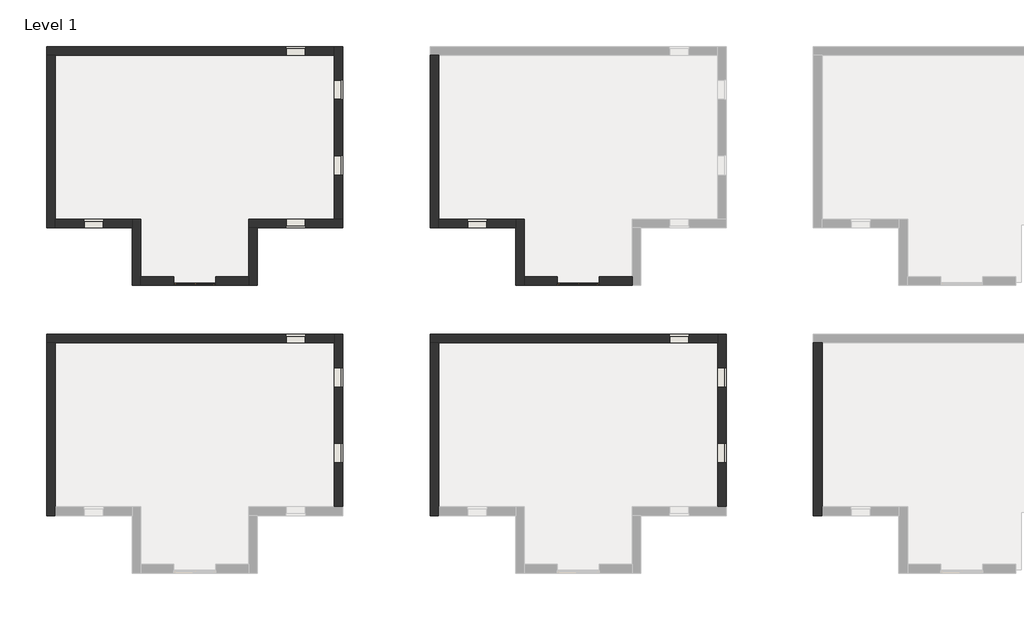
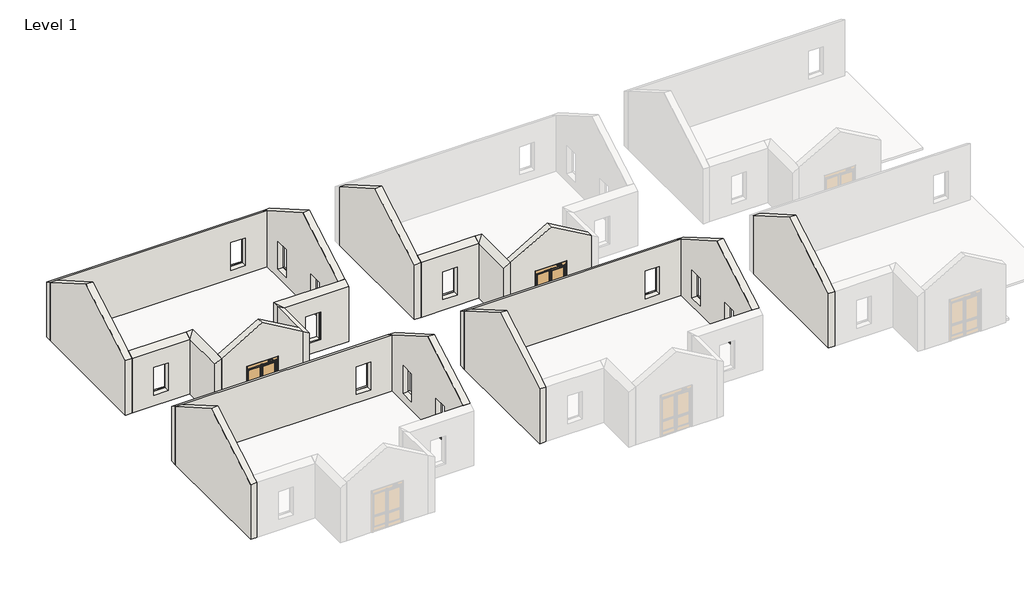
# One storey, part 2 of 4: 19 walls, 2 doors.
"""IFC4 building model written with IfcOpenShell, lengths in millimetres."""

from ifc_helpers import new_model, si_unit, frame, origin, place, context, project, spatial, polyline, outline, extrude, faceted_brep, transform, mapped, element, save
from components import non_impact_rated_medium_stile_77e616cb

model = new_model("IFC4")

# Units and contexts
model_context = context("Model", 3, world=origin())
ifc_project = project(units=[si_unit("LENGTHUNIT", "METRE", prefix="MILLI")], contexts=[model_context])

# Site, building, storey
site = spatial("IfcSite", under=ifc_project)
building = spatial("IfcBuilding", under=site)
storey = spatial("IfcBuildingStorey", under=building, Name="Level 1", Elevation=0.0)

# Doors
placement = place(None, origin())
non_impact_rated_medium_stile_shape = non_impact_rated_medium_stile_77e616cb(model_context)
element("IfcDoor", 1, ObjectType="Door_Sliding_AssaAbloy_Resilience-R128-FBO-Single : Non Impact Rated - Medium Stile", at=placement, inside=storey, context=model_context, shape_type="MappedRepresentation", body=[
    mapped(non_impact_rated_medium_stile_shape, transform((-20939.1239555, 8608.1209288, 0.0), x_axis=(1.0, 0.0, 0.0), y_axis=(0.0, 1.0, 0.0), z_axis=(0.0, 0.0, 1.0))),
])
element("IfcDoor", 2, ObjectType="Door_Sliding_AssaAbloy_Resilience-R128-FBO-Single : Non Impact Rated - Medium Stile", at=placement, inside=storey, context=model_context, shape_type="MappedRepresentation", body=[
    mapped(non_impact_rated_medium_stile_shape, transform((-939.1239555, 8608.1209288, 0.0), x_axis=(1.0, 0.0, 0.0), y_axis=(0.0, 1.0, 0.0), z_axis=(0.0, 0.0, 1.0))),
])

# Walls
element("IfcWall", 3, ObjectType="Exterior - Block on Mtl. Stud", at=placement, inside=storey, context=model_context, shape_type="Brep", body=[
    faceted_brep([(-27036.2332588, 4515.4798849, 4265.5811238), (-27036.2332588, 4515.4798849, 0.0), (-26871.2332588, 4515.4798849, 0.0), (-26871.2332588, 4515.4798849, 150.0), (-26576.2332588, 4515.4798849, 150.0), (-12036.2332588, 4515.4798849, 150.0), (-12036.2332588, 4515.4798849, 4265.5811238), (-26576.2332588, 4515.4798849, 4265.5811238), (-14536.2332588, 4515.4798849, 2800.0), (-13536.2332588, 4515.4798849, 2800.0), (-13536.2332588, 4515.4798849, 770.0), (-14536.2332588, 4515.4798849, 770.0), (-12036.2332588, 4975.4798849, 0.0), (-27036.2332588, 4975.4798849, 0.0), (-27036.2332588, 4975.4798849, 4000.0), (-12036.2332588, 4975.4798849, 4000.0), (-13517.2338968, 4975.4798849, 2832.0), (-14555.2326208, 4975.4798849, 2832.0), (-14555.2326208, 4975.4798849, 800.0), (-13517.2338968, 4975.4798849, 800.0), (-12036.2332588, 4810.4798849, 0.0), (-26871.2332588, 4810.4798849, 0.0), (-12036.2332588, 4810.4798849, 150.0), (-14536.2332588, 4855.4798849, 2800.0), (-13536.2332588, 4855.4798849, 2800.0), (-13536.2332588, 4875.4798849, 770.0), (-14536.2332588, 4875.4798849, 770.0), (-13536.2332588, 4855.4798849, 800.0), (-13536.2332588, 4875.4798849, 800.0), (-14536.2332588, 4875.4798849, 800.0), (-14536.2332588, 4855.4798849, 800.0), (-14568.2332588, 4855.4798849, 2832.0), (-14568.2332588, 4868.4798849, 2832.0), (-14555.2326208, 4868.4798849, 2832.0), (-13517.2338968, 4868.4798849, 2832.0), (-13504.2332588, 4868.4798849, 2832.0), (-13504.2332588, 4855.4798849, 2832.0), (-13504.2332588, 4855.4798849, 800.0), (-13504.2332588, 4868.4798849, 800.0), (-13517.2338968, 4868.4798849, 800.0), (-14555.2326208, 4868.4798849, 800.0), (-14568.2332588, 4868.4798849, 800.0), (-14568.2332588, 4855.4798849, 800.0), (-26871.2332588, 4810.4798849, 150.0)], [[[0, 1, 2, 3, 4, 5, 6, 7], [8, 9, 10, 11]], [[12, 13, 14, 15], [16, 17, 18, 19]], [[13, 12, 20, 21, 2, 1]], [[1, 0, 14, 13]], [[12, 15, 6, 5, 22, 20]], [[9, 8, 23, 24]], [[10, 25, 26, 11]], [[9, 24, 27, 28, 25, 10]], [[26, 25, 28, 29]], [[23, 8, 11, 26, 29, 30]], [[31, 32, 33, 17, 16, 34, 35, 36]], [[28, 27, 37, 38, 39, 19, 18, 40, 41, 42, 30, 29]], [[24, 23, 30, 42, 31, 36, 37, 27]], [[36, 35, 38, 37]], [[32, 31, 42, 41]], [[35, 34, 39, 38]], [[34, 16, 19, 39]], [[17, 33, 40, 18]], [[33, 32, 41, 40]], [[3, 43, 22, 5, 4]], [[21, 43, 3, 2]], [[43, 21, 20, 22]], [[0, 7, 6, 15, 14]]]),
])
element("IfcWall", 4, ObjectType="Exterior - Block on Mtl. Stud", at=placement, inside=storey, context=model_context, shape_type="Brep", body=[
    faceted_brep([(-26576.2332588, -4484.5201151, 4000.0), (-26576.2332588, -4484.5201151, 0.0), (-26576.2332588, -4319.5201151, 0.0), (-26576.2332588, -4319.5201151, 150.0), (-26576.2332588, 4515.4798849, 150.0), (-26576.2332588, 4515.4798849, 4265.5811238), (-26576.2332588, 245.4798849, 6730.8667733), (-26576.2332588, -4024.5201151, 4265.5811238), (-27036.2332588, 4515.4798849, 0.0), (-27036.2332588, -4484.5201151, 0.0), (-27036.2332588, -4484.5201151, 4000.0), (-27036.2332588, 245.4798849, 6730.8667733), (-27036.2332588, 4515.4798849, 4265.5811238), (-26871.2332588, 4515.4798849, 0.0), (-26871.2332588, -4319.5201151, 0.0), (-26871.2332588, 4515.4798849, 150.0), (-26871.2332588, -4319.5201151, 150.0)], [[[0, 1, 2, 3, 4, 5, 6, 7]], [[8, 9, 10, 11, 12]], [[9, 8, 13, 14, 2, 1]], [[1, 0, 10, 9]], [[8, 12, 5, 4, 15, 13]], [[3, 16, 15, 4]], [[16, 14, 13, 15]], [[14, 16, 3, 2]], [[10, 0, 7, 6, 11]], [[5, 12, 11, 6]]]),
])
element("IfcWall", 5, ObjectType="Exterior - Block on Mtl. Stud", at=placement, inside=storey, context=model_context, shape_type="Brep", body=[
    faceted_brep([(-12036.2332588, 4975.4798849, 4000.0), (-12036.2332588, 4975.4798849, 0.0), (-12036.2332588, 4810.4798849, 0.0), (-12036.2332588, 4810.4798849, 150.0), (-12036.2332588, 4515.4798849, 150.0), (-12036.2332588, -4024.5201151, 150.0), (-12036.2332588, -4024.5201151, 4265.5811238), (-12036.2332588, 245.4798849, 6730.8667733), (-12036.2332588, 4515.4798849, 4265.5811238), (-12036.2332588, -724.5201151, 2800.0), (-12036.2332588, -1724.5201151, 2800.0), (-12036.2332588, -1724.5201151, 770.0), (-12036.2332588, -724.5201151, 770.0), (-12036.2332588, 3215.4798849, 2800.0), (-12036.2332588, 2215.4798849, 2800.0), (-12036.2332588, 2215.4798849, 770.0), (-12036.2332588, 3215.4798849, 770.0), (-11576.2332588, -4024.5201151, 0.0), (-11576.2332588, 4975.4798849, 0.0), (-11576.2332588, 4975.4798849, 4000.0), (-11576.2332588, 245.4798849, 6730.8667733), (-11576.2332588, -4024.5201151, 4265.5811238), (-11576.2332588, -1743.5194771, 2832.0), (-11576.2332588, -705.5207531, 2832.0), (-11576.2332588, -705.5207531, 800.0), (-11576.2332588, -1743.5194771, 800.0), (-11576.2332588, 2196.4805229, 2832.0), (-11576.2332588, 3234.4792469, 2832.0), (-11576.2332588, 3234.4792469, 800.0), (-11576.2332588, 2196.4805229, 800.0), (-11741.2332588, -4024.5201151, 0.0), (-11741.2332588, 4810.4798849, 0.0), (-11741.2332588, -4024.5201151, 150.0), (-11696.2332588, -724.5201151, 2800.0), (-11696.2332588, -1724.5201151, 2800.0), (-11676.2332588, -1724.5201151, 770.0), (-11676.2332588, -724.5201151, 770.0), (-11696.2332588, -1724.5201151, 800.0), (-11676.2332588, -1724.5201151, 800.0), (-11676.2332588, -724.5201151, 800.0), (-11696.2332588, -724.5201151, 800.0), (-11696.2332588, -692.5201151, 2832.0), (-11683.2332588, -692.5201151, 2832.0), (-11683.2332588, -705.5207531, 2832.0), (-11683.2332588, -1743.5194771, 2832.0), (-11683.2332588, -1756.5201151, 2832.0), (-11696.2332588, -1756.5201151, 2832.0), (-11696.2332588, -1756.5201151, 800.0), (-11683.2332588, -1756.5201151, 800.0), (-11683.2332588, -1743.5194771, 800.0), (-11683.2332588, -705.5207531, 800.0), (-11683.2332588, -692.5201151, 800.0), (-11696.2332588, -692.5201151, 800.0), (-11696.2332588, 3215.4798849, 2800.0), (-11696.2332588, 2215.4798849, 2800.0), (-11676.2332588, 2215.4798849, 770.0), (-11676.2332588, 3215.4798849, 770.0), (-11696.2332588, 2215.4798849, 800.0), (-11676.2332588, 2215.4798849, 800.0), (-11676.2332588, 3215.4798849, 800.0), (-11696.2332588, 3215.4798849, 800.0), (-11696.2332588, 3247.4798849, 2832.0), (-11683.2332588, 3247.4798849, 2832.0), (-11683.2332588, 3234.4792469, 2832.0), (-11683.2332588, 2196.4805229, 2832.0), (-11683.2332588, 2183.4798849, 2832.0), (-11696.2332588, 2183.4798849, 2832.0), (-11696.2332588, 2183.4798849, 800.0), (-11683.2332588, 2183.4798849, 800.0), (-11683.2332588, 2196.4805229, 800.0), (-11683.2332588, 3234.4792469, 800.0), (-11683.2332588, 3247.4798849, 800.0), (-11696.2332588, 3247.4798849, 800.0), (-11741.2332588, 4810.4798849, 150.0)], [[[0, 1, 2, 3, 4, 5, 6, 7, 8], [9, 10, 11, 12], [13, 14, 15, 16]], [[17, 18, 19, 20, 21], [22, 23, 24, 25], [26, 27, 28, 29]], [[18, 17, 30, 31, 2, 1]], [[1, 0, 19, 18]], [[17, 21, 6, 5, 32, 30]], [[10, 9, 33, 34]], [[11, 35, 36, 12]], [[10, 34, 37, 38, 35, 11]], [[36, 35, 38, 39]], [[33, 9, 12, 36, 39, 40]], [[41, 42, 43, 23, 22, 44, 45, 46]], [[38, 37, 47, 48, 49, 25, 24, 50, 51, 52, 40, 39]], [[34, 33, 40, 52, 41, 46, 47, 37]], [[46, 45, 48, 47]], [[42, 41, 52, 51]], [[45, 44, 49, 48]], [[44, 22, 25, 49]], [[23, 43, 50, 24]], [[43, 42, 51, 50]], [[14, 13, 53, 54]], [[15, 55, 56, 16]], [[14, 54, 57, 58, 55, 15]], [[56, 55, 58, 59]], [[53, 13, 16, 56, 59, 60]], [[61, 62, 63, 27, 26, 64, 65, 66]], [[58, 57, 67, 68, 69, 29, 28, 70, 71, 72, 60, 59]], [[54, 53, 60, 72, 61, 66, 67, 57]], [[66, 65, 68, 67]], [[62, 61, 72, 71]], [[65, 64, 69, 68]], [[64, 26, 29, 69]], [[27, 63, 70, 28]], [[63, 62, 71, 70]], [[73, 32, 5, 4, 3]], [[73, 31, 30, 32]], [[31, 73, 3, 2]], [[19, 0, 8, 7, 20]], [[6, 21, 20, 7]]]),
])
element("IfcWall", 6, ObjectType="Exterior - Block on Mtl. Stud", at=placement, inside=storey, context=model_context, shape_type="Brep", body=[
    faceted_brep([(-7036.2332588, 4515.4798849, 4265.5811238), (-7036.2332588, 4515.4798849, 0.0), (-6871.2332588, 4515.4798849, 0.0), (-6871.2332588, 4515.4798849, 150.0), (-6576.2332588, 4515.4798849, 150.0), (7963.7667412, 4515.4798849, 150.0), (7963.7667412, 4515.4798849, 4265.5811238), (-6576.2332588, 4515.4798849, 4265.5811238), (5463.7667412, 4515.4798849, 2800.0), (6463.7667412, 4515.4798849, 2800.0), (6463.7667412, 4515.4798849, 770.0), (5463.7667412, 4515.4798849, 770.0), (7963.7667412, 4975.4798849, 0.0), (-7036.2332588, 4975.4798849, 0.0), (-7036.2332588, 4975.4798849, 4000.0), (7963.7667412, 4975.4798849, 4000.0), (6482.7661032, 4975.4798849, 2832.0), (5444.7673792, 4975.4798849, 2832.0), (5444.7673792, 4975.4798849, 800.0), (6482.7661032, 4975.4798849, 800.0), (7963.7667412, 4810.4798849, 0.0), (-6871.2332588, 4810.4798849, 0.0), (7963.7667412, 4810.4798849, 150.0), (5463.7667412, 4855.4798849, 2800.0), (6463.7667412, 4855.4798849, 2800.0), (6463.7667412, 4875.4798849, 770.0), (5463.7667412, 4875.4798849, 770.0), (6463.7667412, 4855.4798849, 800.0), (6463.7667412, 4875.4798849, 800.0), (5463.7667412, 4875.4798849, 800.0), (5463.7667412, 4855.4798849, 800.0), (5431.7667412, 4855.4798849, 2832.0), (5431.7667412, 4868.4798849, 2832.0), (5444.7673792, 4868.4798849, 2832.0), (6482.7661032, 4868.4798849, 2832.0), (6495.7667412, 4868.4798849, 2832.0), (6495.7667412, 4855.4798849, 2832.0), (6495.7667412, 4855.4798849, 800.0), (6495.7667412, 4868.4798849, 800.0), (6482.7661032, 4868.4798849, 800.0), (5444.7673792, 4868.4798849, 800.0), (5431.7667412, 4868.4798849, 800.0), (5431.7667412, 4855.4798849, 800.0), (-6871.2332588, 4810.4798849, 150.0)], [[[0, 1, 2, 3, 4, 5, 6, 7], [8, 9, 10, 11]], [[12, 13, 14, 15], [16, 17, 18, 19]], [[13, 12, 20, 21, 2, 1]], [[1, 0, 14, 13]], [[12, 15, 6, 5, 22, 20]], [[9, 8, 23, 24]], [[10, 25, 26, 11]], [[9, 24, 27, 28, 25, 10]], [[26, 25, 28, 29]], [[23, 8, 11, 26, 29, 30]], [[31, 32, 33, 17, 16, 34, 35, 36]], [[28, 27, 37, 38, 39, 19, 18, 40, 41, 42, 30, 29]], [[24, 23, 30, 42, 31, 36, 37, 27]], [[36, 35, 38, 37]], [[32, 31, 42, 41]], [[35, 34, 39, 38]], [[34, 16, 19, 39]], [[17, 33, 40, 18]], [[33, 32, 41, 40]], [[3, 43, 22, 5, 4]], [[21, 43, 3, 2]], [[43, 21, 20, 22]], [[0, 7, 6, 15, 14]]]),
])
element("IfcWall", 7, ObjectType="Exterior - Block on Mtl. Stud", at=placement, inside=storey, context=model_context, shape_type="Brep", body=[
    faceted_brep([(-6576.2332588, -4484.5201151, 4000.0), (-6576.2332588, -4484.5201151, 0.0), (-6576.2332588, -4319.5201151, 0.0), (-6576.2332588, -4319.5201151, 150.0), (-6576.2332588, 4515.4798849, 150.0), (-6576.2332588, 4515.4798849, 4265.5811238), (-6576.2332588, 245.4798849, 6730.8667733), (-6576.2332588, -4024.5201151, 4265.5811238), (-7036.2332588, 4515.4798849, 0.0), (-7036.2332588, -4484.5201151, 0.0), (-7036.2332588, -4484.5201151, 4000.0), (-7036.2332588, 245.4798849, 6730.8667733), (-7036.2332588, 4515.4798849, 4265.5811238), (-6871.2332588, 4515.4798849, 0.0), (-6871.2332588, -4319.5201151, 0.0), (-6871.2332588, 4515.4798849, 150.0), (-6871.2332588, -4319.5201151, 150.0)], [[[0, 1, 2, 3, 4, 5, 6, 7]], [[8, 9, 10, 11, 12]], [[9, 8, 13, 14, 2, 1]], [[1, 0, 10, 9]], [[8, 12, 5, 4, 15, 13]], [[3, 16, 15, 4]], [[16, 14, 13, 15]], [[14, 16, 3, 2]], [[10, 0, 7, 6, 11]], [[5, 12, 11, 6]]]),
])
element("IfcWall", 8, ObjectType="Exterior - Block on Mtl. Stud", at=placement, inside=storey, context=model_context, shape_type="Brep", body=[
    faceted_brep([(7963.7667412, 4975.4798849, 4000.0), (7963.7667412, 4975.4798849, 0.0), (7963.7667412, 4810.4798849, 0.0), (7963.7667412, 4810.4798849, 150.0), (7963.7667412, 4515.4798849, 150.0), (7963.7667412, -4024.5201151, 150.0), (7963.7667412, -4024.5201151, 4265.5811238), (7963.7667412, 245.4798849, 6730.8667733), (7963.7667412, 4515.4798849, 4265.5811238), (7963.7667412, -724.5201151, 2800.0), (7963.7667412, -1724.5201151, 2800.0), (7963.7667412, -1724.5201151, 770.0), (7963.7667412, -724.5201151, 770.0), (7963.7667412, 3215.4798849, 2800.0), (7963.7667412, 2215.4798849, 2800.0), (7963.7667412, 2215.4798849, 770.0), (7963.7667412, 3215.4798849, 770.0), (8423.7667412, -4024.5201151, 0.0), (8423.7667412, 4975.4798849, 0.0), (8423.7667412, 4975.4798849, 4000.0), (8423.7667412, 245.4798849, 6730.8667733), (8423.7667412, -4024.5201151, 4265.5811238), (8423.7667412, -1743.5194771, 2832.0), (8423.7667412, -705.5207531, 2832.0), (8423.7667412, -705.5207531, 800.0), (8423.7667412, -1743.5194771, 800.0), (8423.7667412, 2196.4805229, 2832.0), (8423.7667412, 3234.4792469, 2832.0), (8423.7667412, 3234.4792469, 800.0), (8423.7667412, 2196.4805229, 800.0), (8258.7667412, -4024.5201151, 0.0), (8258.7667412, 4810.4798849, 0.0), (8258.7667412, -4024.5201151, 150.0), (8303.7667412, -724.5201151, 2800.0), (8303.7667412, -1724.5201151, 2800.0), (8323.7667412, -1724.5201151, 770.0), (8323.7667412, -724.5201151, 770.0), (8303.7667412, -1724.5201151, 800.0), (8323.7667412, -1724.5201151, 800.0), (8323.7667412, -724.5201151, 800.0), (8303.7667412, -724.5201151, 800.0), (8303.7667412, -692.5201151, 2832.0), (8316.7667412, -692.5201151, 2832.0), (8316.7667412, -705.5207531, 2832.0), (8316.7667412, -1743.5194771, 2832.0), (8316.7667412, -1756.5201151, 2832.0), (8303.7667412, -1756.5201151, 2832.0), (8303.7667412, -1756.5201151, 800.0), (8316.7667412, -1756.5201151, 800.0), (8316.7667412, -1743.5194771, 800.0), (8316.7667412, -705.5207531, 800.0), (8316.7667412, -692.5201151, 800.0), (8303.7667412, -692.5201151, 800.0), (8303.7667412, 3215.4798849, 2800.0), (8303.7667412, 2215.4798849, 2800.0), (8323.7667412, 2215.4798849, 770.0), (8323.7667412, 3215.4798849, 770.0), (8303.7667412, 2215.4798849, 800.0), (8323.7667412, 2215.4798849, 800.0), (8323.7667412, 3215.4798849, 800.0), (8303.7667412, 3215.4798849, 800.0), (8303.7667412, 3247.4798849, 2832.0), (8316.7667412, 3247.4798849, 2832.0), (8316.7667412, 3234.4792469, 2832.0), (8316.7667412, 2196.4805229, 2832.0), (8316.7667412, 2183.4798849, 2832.0), (8303.7667412, 2183.4798849, 2832.0), (8303.7667412, 2183.4798849, 800.0), (8316.7667412, 2183.4798849, 800.0), (8316.7667412, 2196.4805229, 800.0), (8316.7667412, 3234.4792469, 800.0), (8316.7667412, 3247.4798849, 800.0), (8303.7667412, 3247.4798849, 800.0), (8258.7667412, 4810.4798849, 150.0)], [[[0, 1, 2, 3, 4, 5, 6, 7, 8], [9, 10, 11, 12], [13, 14, 15, 16]], [[17, 18, 19, 20, 21], [22, 23, 24, 25], [26, 27, 28, 29]], [[18, 17, 30, 31, 2, 1]], [[1, 0, 19, 18]], [[17, 21, 6, 5, 32, 30]], [[10, 9, 33, 34]], [[11, 35, 36, 12]], [[10, 34, 37, 38, 35, 11]], [[36, 35, 38, 39]], [[33, 9, 12, 36, 39, 40]], [[41, 42, 43, 23, 22, 44, 45, 46]], [[38, 37, 47, 48, 49, 25, 24, 50, 51, 52, 40, 39]], [[34, 33, 40, 52, 41, 46, 47, 37]], [[46, 45, 48, 47]], [[42, 41, 52, 51]], [[45, 44, 49, 48]], [[44, 22, 25, 49]], [[23, 43, 50, 24]], [[43, 42, 51, 50]], [[14, 13, 53, 54]], [[15, 55, 56, 16]], [[14, 54, 57, 58, 55, 15]], [[56, 55, 58, 59]], [[53, 13, 16, 56, 59, 60]], [[61, 62, 63, 27, 26, 64, 65, 66]], [[58, 57, 67, 68, 69, 29, 28, 70, 71, 72, 60, 59]], [[54, 53, 60, 72, 61, 66, 67, 57]], [[66, 65, 68, 67]], [[62, 61, 72, 71]], [[65, 64, 69, 68]], [[64, 26, 29, 69]], [[27, 63, 70, 28]], [[63, 62, 71, 70]], [[73, 32, 5, 4, 3]], [[73, 31, 30, 32]], [[31, 73, 3, 2]], [[19, 0, 8, 7, 20]], [[6, 21, 20, 7]]]),
])
element("IfcWall", 9, ObjectType="Exterior - Block on Mtl. Stud", at=placement, inside=storey, context=model_context, shape_type="Brep", body=[
    faceted_brep([(13423.7667412, -4484.5201151, 4000.0), (13423.7667412, -4484.5201151, 0.0), (13423.7667412, -4319.5201151, 0.0), (13423.7667412, -4319.5201151, 150.0), (13423.7667412, 4515.4798849, 150.0), (13423.7667412, 4515.4798849, 4265.5811238), (13423.7667412, 245.4798849, 6730.8667733), (13423.7667412, -4024.5201151, 4265.5811238), (12963.7667412, 4515.4798849, 0.0), (12963.7667412, -4484.5201151, 0.0), (12963.7667412, -4484.5201151, 4000.0), (12963.7667412, 245.4798849, 6730.8667733), (12963.7667412, 4515.4798849, 4265.5811238), (13128.7667412, 4515.4798849, 0.0), (13128.7667412, -4319.5201151, 0.0), (13128.7667412, 4515.4798849, 150.0), (13128.7667412, -4319.5201151, 150.0)], [[[0, 1, 2, 3, 4, 5, 6, 7]], [[8, 9, 10, 11, 12]], [[9, 8, 13, 14, 2, 1]], [[1, 0, 10, 9]], [[8, 12, 5, 4, 15, 13]], [[3, 16, 15, 4]], [[16, 14, 13, 15]], [[14, 16, 3, 2]], [[10, 0, 7, 6, 11]], [[5, 12, 11, 6]]]),
])
element("IfcWall", 10, ObjectType="Exterior - Block on Mtl. Stud", at=placement, inside=storey, context=model_context, shape_type="Brep", body=[
    faceted_brep([(-27036.2332588, 19515.4798849, 4265.5811238), (-27036.2332588, 19515.4798849, 0.0), (-26871.2332588, 19515.4798849, 0.0), (-26871.2332588, 19515.4798849, 150.0), (-26576.2332588, 19515.4798849, 150.0), (-12036.2332588, 19515.4798849, 150.0), (-12036.2332588, 19515.4798849, 4265.5811238), (-26576.2332588, 19515.4798849, 4265.5811238), (-14536.2332588, 19515.4798849, 2800.0), (-13536.2332588, 19515.4798849, 2800.0), (-13536.2332588, 19515.4798849, 770.0), (-14536.2332588, 19515.4798849, 770.0), (-12036.2332588, 19975.4798849, 0.0), (-27036.2332588, 19975.4798849, 0.0), (-27036.2332588, 19975.4798849, 4000.0), (-12036.2332588, 19975.4798849, 4000.0), (-13517.2338968, 19975.4798849, 2832.0), (-14555.2326208, 19975.4798849, 2832.0), (-14555.2326208, 19975.4798849, 800.0), (-13517.2338968, 19975.4798849, 800.0), (-12036.2332588, 19810.4798849, 0.0), (-26871.2332588, 19810.4798849, 0.0), (-12036.2332588, 19810.4798849, 150.0), (-14536.2332588, 19855.4798849, 2800.0), (-13536.2332588, 19855.4798849, 2800.0), (-13536.2332588, 19875.4798849, 770.0), (-14536.2332588, 19875.4798849, 770.0), (-13536.2332588, 19855.4798849, 800.0), (-13536.2332588, 19875.4798849, 800.0), (-14536.2332588, 19875.4798849, 800.0), (-14536.2332588, 19855.4798849, 800.0), (-14568.2332588, 19855.4798849, 2832.0), (-14568.2332588, 19868.4798849, 2832.0), (-14555.2326208, 19868.4798849, 2832.0), (-13517.2338968, 19868.4798849, 2832.0), (-13504.2332588, 19868.4798849, 2832.0), (-13504.2332588, 19855.4798849, 2832.0), (-13504.2332588, 19855.4798849, 800.0), (-13504.2332588, 19868.4798849, 800.0), (-13517.2338968, 19868.4798849, 800.0), (-14555.2326208, 19868.4798849, 800.0), (-14568.2332588, 19868.4798849, 800.0), (-14568.2332588, 19855.4798849, 800.0), (-26871.2332588, 19810.4798849, 150.0)], [[[0, 1, 2, 3, 4, 5, 6, 7], [8, 9, 10, 11]], [[12, 13, 14, 15], [16, 17, 18, 19]], [[13, 12, 20, 21, 2, 1]], [[1, 0, 14, 13]], [[12, 15, 6, 5, 22, 20]], [[9, 8, 23, 24]], [[10, 25, 26, 11]], [[9, 24, 27, 28, 25, 10]], [[26, 25, 28, 29]], [[23, 8, 11, 26, 29, 30]], [[31, 32, 33, 17, 16, 34, 35, 36]], [[28, 27, 37, 38, 39, 19, 18, 40, 41, 42, 30, 29]], [[24, 23, 30, 42, 31, 36, 37, 27]], [[36, 35, 38, 37]], [[32, 31, 42, 41]], [[35, 34, 39, 38]], [[34, 16, 19, 39]], [[17, 33, 40, 18]], [[33, 32, 41, 40]], [[3, 43, 22, 5, 4]], [[21, 43, 3, 2]], [[43, 21, 20, 22]], [[0, 7, 6, 15, 14]]]),
])
element("IfcWall", 11, ObjectType="Exterior - Block on Mtl. Stud", at=placement, inside=storey, context=model_context, shape_type="Brep", body=[
    faceted_brep([(-26576.2332588, 10515.4798849, 4000.0), (-26576.2332588, 10515.4798849, 0.0), (-26576.2332588, 10680.4798849, 0.0), (-26576.2332588, 10680.4798849, 150.0), (-26576.2332588, 19515.4798849, 150.0), (-26576.2332588, 19515.4798849, 4265.5811238), (-26576.2332588, 15245.4798849, 6730.8667733), (-26576.2332588, 10975.4798849, 4265.5811238), (-27036.2332588, 19515.4798849, 0.0), (-27036.2332588, 10515.4798849, 0.0), (-27036.2332588, 10515.4798849, 4000.0), (-27036.2332588, 15245.4798849, 6730.8667733), (-27036.2332588, 19515.4798849, 4265.5811238), (-26871.2332588, 19515.4798849, 0.0), (-26871.2332588, 10680.4798849, 0.0), (-26871.2332588, 19515.4798849, 150.0), (-26871.2332588, 10680.4798849, 150.0)], [[[0, 1, 2, 3, 4, 5, 6, 7]], [[8, 9, 10, 11, 12]], [[9, 8, 13, 14, 2, 1]], [[1, 0, 10, 9]], [[8, 12, 5, 4, 15, 13]], [[3, 16, 15, 4]], [[16, 14, 13, 15]], [[14, 16, 3, 2]], [[10, 0, 7, 6, 11]], [[5, 12, 11, 6]]]),
])
element("IfcWall", 12, ObjectType="Exterior - Block on Mtl. Stud", at=placement, inside=storey, context=model_context, shape_type="Brep", body=[
    faceted_brep([(-11576.2332588, 10975.4798849, 4265.5811238), (-11576.2332588, 10975.4798849, 0.0), (-11741.2332588, 10975.4798849, 0.0), (-11741.2332588, 10975.4798849, 150.0), (-12036.2332588, 10975.4798849, 150.0), (-16496.2332588, 10975.4798849, 150.0), (-16496.2332588, 10975.4798849, 4265.5811238), (-12036.2332588, 10975.4798849, 4265.5811238), (-13536.2332588, 10975.4798849, 2800.0), (-14536.2332588, 10975.4798849, 2800.0), (-14536.2332588, 10975.4798849, 770.0), (-13536.2332588, 10975.4798849, 770.0), (-11576.2332588, 10515.4798849, 0.0), (-11576.2332588, 10515.4798849, 4000.0), (-16036.2332588, 10515.4798849, 4000.0), (-16496.2332588, 10515.4798849, 4265.5811238), (-16496.2332588, 10515.4798849, 150.0), (-16201.2332588, 10515.4798849, 150.0), (-16201.2332588, 10515.4798849, 0.0), (-16036.2332588, 10515.4798849, 0.0), (-14555.2326208, 10515.4798849, 2832.0), (-13517.2338968, 10515.4798849, 2832.0), (-13517.2338968, 10515.4798849, 800.0), (-14555.2326208, 10515.4798849, 800.0), (-16201.2332588, 10680.4798849, 0.0), (-11741.2332588, 10680.4798849, 0.0), (-13536.2332588, 10635.4798849, 2800.0), (-14536.2332588, 10635.4798849, 2800.0), (-14536.2332588, 10615.4798849, 770.0), (-13536.2332588, 10615.4798849, 770.0), (-14536.2332588, 10635.4798849, 800.0), (-14536.2332588, 10615.4798849, 800.0), (-13536.2332588, 10615.4798849, 800.0), (-13536.2332588, 10635.4798849, 800.0), (-13504.2332588, 10635.4798849, 2832.0), (-13504.2332588, 10622.4798849, 2832.0), (-13517.2338968, 10622.4798849, 2832.0), (-14555.2326208, 10622.4798849, 2832.0), (-14568.2332588, 10622.4798849, 2832.0), (-14568.2332588, 10635.4798849, 2832.0), (-14568.2332588, 10635.4798849, 800.0), (-14568.2332588, 10622.4798849, 800.0), (-14555.2326208, 10622.4798849, 800.0), (-13517.2338968, 10622.4798849, 800.0), (-13504.2332588, 10622.4798849, 800.0), (-13504.2332588, 10635.4798849, 800.0), (-11741.2332588, 10680.4798849, 150.0), (-16201.2332588, 10680.4798849, 150.0)], [[[0, 1, 2, 3, 4, 5, 6, 7], [8, 9, 10, 11]], [[12, 13, 14, 15, 16, 17, 18, 19], [20, 21, 22, 23]], [[1, 12, 19, 18, 24, 25, 2]], [[1, 0, 13, 12]], [[9, 8, 26, 27]], [[10, 28, 29, 11]], [[9, 27, 30, 31, 28, 10]], [[29, 28, 31, 32]], [[26, 8, 11, 29, 32, 33]], [[34, 35, 36, 21, 20, 37, 38, 39]], [[31, 30, 40, 41, 42, 23, 22, 43, 44, 45, 33, 32]], [[27, 26, 33, 45, 34, 39, 40, 30]], [[39, 38, 41, 40]], [[35, 34, 45, 44]], [[38, 37, 42, 41]], [[37, 20, 23, 42]], [[21, 36, 43, 22]], [[36, 35, 44, 43]], [[15, 6, 5, 16]], [[46, 47, 17, 16, 5, 4, 3]], [[25, 46, 3, 2]], [[47, 46, 25, 24]], [[47, 24, 18, 17]], [[13, 0, 7, 6, 14]], [[6, 15, 14]]]),
])
element("IfcWall", 13, ObjectType="Exterior - Block on Mtl. Stud", at=placement, inside=storey, context=model_context, shape_type="Brep", body=[
    faceted_brep([(-12036.2332588, 19975.4798849, 4000.0), (-12036.2332588, 19975.4798849, 0.0), (-12036.2332588, 19810.4798849, 0.0), (-12036.2332588, 19810.4798849, 150.0), (-12036.2332588, 19515.4798849, 150.0), (-12036.2332588, 10975.4798849, 150.0), (-12036.2332588, 10975.4798849, 4265.5811238), (-12036.2332588, 15245.4798849, 6730.8667733), (-12036.2332588, 19515.4798849, 4265.5811238), (-12036.2332588, 14275.4798849, 2800.0), (-12036.2332588, 13275.4798849, 2800.0), (-12036.2332588, 13275.4798849, 770.0), (-12036.2332588, 14275.4798849, 770.0), (-12036.2332588, 18215.4798849, 2800.0), (-12036.2332588, 17215.4798849, 2800.0), (-12036.2332588, 17215.4798849, 770.0), (-12036.2332588, 18215.4798849, 770.0), (-11576.2332588, 10975.4798849, 0.0), (-11576.2332588, 19975.4798849, 0.0), (-11576.2332588, 19975.4798849, 4000.0), (-11576.2332588, 15245.4798849, 6730.8667733), (-11576.2332588, 10975.4798849, 4265.5811238), (-11576.2332588, 13256.4805229, 2832.0), (-11576.2332588, 14294.4792469, 2832.0), (-11576.2332588, 14294.4792469, 800.0), (-11576.2332588, 13256.4805229, 800.0), (-11576.2332588, 17196.4805229, 2832.0), (-11576.2332588, 18234.4792469, 2832.0), (-11576.2332588, 18234.4792469, 800.0), (-11576.2332588, 17196.4805229, 800.0), (-11741.2332588, 10975.4798849, 0.0), (-11741.2332588, 19810.4798849, 0.0), (-11741.2332588, 10975.4798849, 150.0), (-11696.2332588, 14275.4798849, 2800.0), (-11696.2332588, 13275.4798849, 2800.0), (-11676.2332588, 13275.4798849, 770.0), (-11676.2332588, 14275.4798849, 770.0), (-11696.2332588, 13275.4798849, 800.0), (-11676.2332588, 13275.4798849, 800.0), (-11676.2332588, 14275.4798849, 800.0), (-11696.2332588, 14275.4798849, 800.0), (-11696.2332588, 14307.4798849, 2832.0), (-11683.2332588, 14307.4798849, 2832.0), (-11683.2332588, 14294.4792469, 2832.0), (-11683.2332588, 13256.4805229, 2832.0), (-11683.2332588, 13243.4798849, 2832.0), (-11696.2332588, 13243.4798849, 2832.0), (-11696.2332588, 13243.4798849, 800.0), (-11683.2332588, 13243.4798849, 800.0), (-11683.2332588, 13256.4805229, 800.0), (-11683.2332588, 14294.4792469, 800.0), (-11683.2332588, 14307.4798849, 800.0), (-11696.2332588, 14307.4798849, 800.0), (-11696.2332588, 18215.4798849, 2800.0), (-11696.2332588, 17215.4798849, 2800.0), (-11676.2332588, 17215.4798849, 770.0), (-11676.2332588, 18215.4798849, 770.0), (-11696.2332588, 17215.4798849, 800.0), (-11676.2332588, 17215.4798849, 800.0), (-11676.2332588, 18215.4798849, 800.0), (-11696.2332588, 18215.4798849, 800.0), (-11696.2332588, 18247.4798849, 2832.0), (-11683.2332588, 18247.4798849, 2832.0), (-11683.2332588, 18234.4792469, 2832.0), (-11683.2332588, 17196.4805229, 2832.0), (-11683.2332588, 17183.4798849, 2832.0), (-11696.2332588, 17183.4798849, 2832.0), (-11696.2332588, 17183.4798849, 800.0), (-11683.2332588, 17183.4798849, 800.0), (-11683.2332588, 17196.4805229, 800.0), (-11683.2332588, 18234.4792469, 800.0), (-11683.2332588, 18247.4798849, 800.0), (-11696.2332588, 18247.4798849, 800.0), (-11741.2332588, 19810.4798849, 150.0)], [[[0, 1, 2, 3, 4, 5, 6, 7, 8], [9, 10, 11, 12], [13, 14, 15, 16]], [[17, 18, 19, 20, 21], [22, 23, 24, 25], [26, 27, 28, 29]], [[18, 17, 30, 31, 2, 1]], [[1, 0, 19, 18]], [[17, 21, 6, 5, 32, 30]], [[10, 9, 33, 34]], [[11, 35, 36, 12]], [[10, 34, 37, 38, 35, 11]], [[36, 35, 38, 39]], [[33, 9, 12, 36, 39, 40]], [[41, 42, 43, 23, 22, 44, 45, 46]], [[38, 37, 47, 48, 49, 25, 24, 50, 51, 52, 40, 39]], [[34, 33, 40, 52, 41, 46, 47, 37]], [[46, 45, 48, 47]], [[42, 41, 52, 51]], [[45, 44, 49, 48]], [[44, 22, 25, 49]], [[23, 43, 50, 24]], [[43, 42, 51, 50]], [[14, 13, 53, 54]], [[15, 55, 56, 16]], [[14, 54, 57, 58, 55, 15]], [[56, 55, 58, 59]], [[53, 13, 16, 56, 59, 60]], [[61, 62, 63, 27, 26, 64, 65, 66]], [[58, 57, 67, 68, 69, 29, 28, 70, 71, 72, 60, 59]], [[54, 53, 60, 72, 61, 66, 67, 57]], [[66, 65, 68, 67]], [[62, 61, 72, 71]], [[65, 64, 69, 68]], [[64, 26, 29, 69]], [[27, 63, 70, 28]], [[63, 62, 71, 70]], [[73, 32, 5, 4, 3]], [[73, 31, 30, 32]], [[31, 73, 3, 2]], [[19, 0, 8, 7, 20]], [[6, 21, 20, 7]]]),
])
element("IfcWall", 14, ObjectType="Exterior - Block on Mtl. Stud", at=placement, inside=storey, context=model_context, shape_type="Brep", body=[
    faceted_brep([(-22576.2332588, 10975.4798849, 0.0), (-22576.2332588, 10515.4798849, 0.0), (-22576.2332588, 7515.4798849, 0.0), (-22576.2332588, 7515.4798849, 4000.0), (-22576.2332588, 10515.4798849, 4000.0), (-22576.2332588, 10975.4798849, 4265.5811238), (-22116.2332588, 10975.4798849, 0.0), (-22116.2332588, 10975.4798849, 4265.5811238), (-22116.2332588, 7975.4798849, 4265.5811238), (-22116.2332588, 7515.4798849, 4265.5811238), (-22116.2332588, 7515.4798849, 0.0), (-22116.2332588, 7975.4798849, 0.0)], [[[0, 1, 2, 3, 4, 5]], [[6, 7, 8, 9, 10, 11]], [[2, 1, 0, 6, 11, 10]], [[3, 2, 10, 9]], [[0, 5, 7, 6]], [[5, 4, 7]], [[4, 3, 9, 8, 7]]]),
])
element("IfcWall", 15, ObjectType="Exterior - Block on Mtl. Stud", at=placement, inside=storey, context=model_context, shape_type="Brep", body=[
    faceted_brep([(-16496.2332588, 10515.4798849, 0.0), (-16496.2332588, 7975.4798849, 0.0), (-16496.2332588, 7515.4798849, 0.0), (-16496.2332588, 7515.4798849, 4265.5811238), (-16496.2332588, 7975.4798849, 4265.5811238), (-16496.2332588, 10515.4798849, 4265.5811238), (-16036.2332588, 10515.4798849, 0.0), (-16036.2332588, 10515.4798849, 4000.0), (-16036.2332588, 7515.4798849, 4000.0), (-16036.2332588, 7515.4798849, 0.0)], [[[0, 1, 2, 3, 4, 5]], [[6, 7, 8, 9]], [[2, 1, 0, 6, 9]], [[3, 2, 9, 8]], [[0, 5, 7, 6]], [[5, 4, 3, 8, 7]]]),
])
element("IfcWall", 16, ObjectType="Exterior - Block on Mtl. Stud", at=placement, inside=storey, context=model_context, shape_type="SweptSolid", body=[
    extrude(outline(polyline([(4265.5811238, -22116.2332588), (0.0, -22116.2332588), (0.0, -20404.7832588), (3054.35, -20404.7832588), (3054.35, -18207.6832588), (0.0, -18207.6832588), (0.0, -16496.2332588), (4265.5811238, -16496.2332588), (5887.9353802, -19306.2332588), (4265.5811238, -22116.2332588)])), frame((0.0, 7515.4798849, 0.0), z_axis=(0.0, 1.0, 0.0), x_axis=(0.0, 0.0, 1.0)), (0.0, 0.0, 1.0), 460.0),
])
element("IfcWall", 17, ObjectType="Exterior - Block on Mtl. Stud", at=placement, inside=storey, context=model_context, shape_type="Brep", body=[
    faceted_brep([(-22576.2332588, 10975.4798849, 0.0), (-26576.2332588, 10975.4798849, 0.0), (-26576.2332588, 10975.4798849, 4265.5811238), (-22576.2332588, 10975.4798849, 4265.5811238), (-24057.2338968, 10975.4798849, 2832.0), (-25095.2326208, 10975.4798849, 2832.0), (-25095.2326208, 10975.4798849, 800.0), (-24057.2338968, 10975.4798849, 800.0), (-22576.2332588, 10515.4798849, 0.0), (-22576.2332588, 10515.4798849, 4000.0), (-26576.2332588, 10515.4798849, 4000.0), (-26576.2332588, 10515.4798849, 0.0), (-25076.2332588, 10515.4798849, 2800.0), (-24076.2332588, 10515.4798849, 2800.0), (-24076.2332588, 10515.4798849, 770.0), (-25076.2332588, 10515.4798849, 770.0), (-26576.2332588, 10680.4798849, 0.0), (-25076.2332588, 10855.4798849, 2800.0), (-24076.2332588, 10855.4798849, 2800.0), (-24076.2332588, 10875.4798849, 770.0), (-25076.2332588, 10875.4798849, 770.0), (-24076.2332588, 10855.4798849, 800.0), (-24076.2332588, 10875.4798849, 800.0), (-25076.2332588, 10875.4798849, 800.0), (-25076.2332588, 10855.4798849, 800.0), (-25108.2332588, 10855.4798849, 2832.0), (-25108.2332588, 10868.4798849, 2832.0), (-25095.2326208, 10868.4798849, 2832.0), (-24057.2338968, 10868.4798849, 2832.0), (-24044.2332588, 10868.4798849, 2832.0), (-24044.2332588, 10855.4798849, 2832.0), (-24044.2332588, 10855.4798849, 800.0), (-24044.2332588, 10868.4798849, 800.0), (-24057.2338968, 10868.4798849, 800.0), (-25095.2326208, 10868.4798849, 800.0), (-25108.2332588, 10868.4798849, 800.0), (-25108.2332588, 10855.4798849, 800.0)], [[[0, 1, 2, 3], [4, 5, 6, 7]], [[8, 9, 10, 11], [12, 13, 14, 15]], [[1, 0, 8, 11, 16]], [[2, 1, 16, 11, 10]], [[0, 3, 9, 8]], [[13, 12, 17, 18]], [[14, 19, 20, 15]], [[19, 14, 13, 18, 21, 22]], [[20, 19, 22, 23]], [[15, 20, 23, 24, 17, 12]], [[25, 26, 27, 5, 4, 28, 29, 30]], [[31, 32, 33, 7, 6, 34, 35, 36, 24, 23, 22, 21]], [[25, 30, 31, 21, 18, 17, 24, 36]], [[30, 29, 32, 31]], [[26, 25, 36, 35]], [[29, 28, 33, 32]], [[28, 4, 7, 33]], [[5, 27, 34, 6]], [[27, 26, 35, 34]], [[3, 2, 10, 9]]]),
])
element("IfcWall", 18, ObjectType="Exterior - Block on Mtl. Stud", at=placement, inside=storey, context=model_context, shape_type="Brep", body=[
    faceted_brep([(-6576.2332588, 10515.4798849, 4000.0), (-6576.2332588, 10515.4798849, 0.0), (-6576.2332588, 10680.4798849, 0.0), (-6576.2332588, 10680.4798849, 150.0), (-6576.2332588, 19515.4798849, 150.0), (-6576.2332588, 19515.4798849, 4265.5811238), (-6576.2332588, 15245.4798849, 6730.8667733), (-6576.2332588, 10975.4798849, 4265.5811238), (-7036.2332588, 19515.4798849, 0.0), (-7036.2332588, 10515.4798849, 0.0), (-7036.2332588, 10515.4798849, 4000.0), (-7036.2332588, 15245.4798849, 6730.8667733), (-7036.2332588, 19515.4798849, 4265.5811238), (-6871.2332588, 19515.4798849, 0.0), (-6871.2332588, 10680.4798849, 0.0), (-6871.2332588, 19515.4798849, 150.0), (-6871.2332588, 10680.4798849, 150.0)], [[[0, 1, 2, 3, 4, 5, 6, 7]], [[8, 9, 10, 11, 12]], [[9, 8, 13, 14, 2, 1]], [[1, 0, 10, 9]], [[8, 12, 5, 4, 15, 13]], [[3, 16, 15, 4]], [[16, 14, 13, 15]], [[14, 16, 3, 2]], [[10, 0, 7, 6, 11]], [[5, 12, 11, 6]]]),
])
element("IfcWall", 19, ObjectType="Exterior - Block on Mtl. Stud", at=placement, inside=storey, context=model_context, shape_type="Brep", body=[
    faceted_brep([(-2576.2332588, 10975.4798849, 0.0), (-2576.2332588, 10515.4798849, 0.0), (-2576.2332588, 7515.4798849, 0.0), (-2576.2332588, 7515.4798849, 4000.0), (-2576.2332588, 10515.4798849, 4000.0), (-2576.2332588, 10975.4798849, 4265.5811238), (-2116.2332588, 10975.4798849, 0.0), (-2116.2332588, 10975.4798849, 4265.5811238), (-2116.2332588, 7975.4798849, 4265.5811238), (-2116.2332588, 7515.4798849, 4265.5811238), (-2116.2332588, 7515.4798849, 0.0), (-2116.2332588, 7975.4798849, 0.0)], [[[0, 1, 2, 3, 4, 5]], [[6, 7, 8, 9, 10, 11]], [[2, 1, 0, 6, 11, 10]], [[3, 2, 10, 9]], [[0, 5, 7, 6]], [[5, 4, 7]], [[4, 3, 9, 8, 7]]]),
])
element("IfcWall", 20, ObjectType="Exterior - Block on Mtl. Stud", at=placement, inside=storey, context=model_context, shape_type="SweptSolid", body=[
    extrude(outline(polyline([(4265.5811238, -2116.2332588), (0.0, -2116.2332588), (0.0, -404.7832588), (3054.35, -404.7832588), (3054.35, 1792.3167412), (0.0, 1792.3167412), (0.0, 3503.7667412), (4265.5811238, 3503.7667412), (5887.9353802, 693.7667412), (4265.5811238, -2116.2332588)])), frame((0.0, 7515.4798849, 0.0), z_axis=(0.0, 1.0, 0.0), x_axis=(0.0, 0.0, 1.0)), (0.0, 0.0, 1.0), 460.0),
])
element("IfcWall", 21, ObjectType="Exterior - Block on Mtl. Stud", at=placement, inside=storey, context=model_context, shape_type="Brep", body=[
    faceted_brep([(-2576.2332588, 10975.4798849, 0.0), (-6576.2332588, 10975.4798849, 0.0), (-6576.2332588, 10975.4798849, 4265.5811238), (-2576.2332588, 10975.4798849, 4265.5811238), (-4057.2338968, 10975.4798849, 2832.0), (-5095.2326208, 10975.4798849, 2832.0), (-5095.2326208, 10975.4798849, 800.0), (-4057.2338968, 10975.4798849, 800.0), (-2576.2332588, 10515.4798849, 0.0), (-2576.2332588, 10515.4798849, 4000.0), (-6576.2332588, 10515.4798849, 4000.0), (-6576.2332588, 10515.4798849, 0.0), (-5076.2332588, 10515.4798849, 2800.0), (-4076.2332588, 10515.4798849, 2800.0), (-4076.2332588, 10515.4798849, 770.0), (-5076.2332588, 10515.4798849, 770.0), (-6576.2332588, 10680.4798849, 0.0), (-5076.2332588, 10855.4798849, 2800.0), (-4076.2332588, 10855.4798849, 2800.0), (-4076.2332588, 10875.4798849, 770.0), (-5076.2332588, 10875.4798849, 770.0), (-4076.2332588, 10855.4798849, 800.0), (-4076.2332588, 10875.4798849, 800.0), (-5076.2332588, 10875.4798849, 800.0), (-5076.2332588, 10855.4798849, 800.0), (-5108.2332588, 10855.4798849, 2832.0), (-5108.2332588, 10868.4798849, 2832.0), (-5095.2326208, 10868.4798849, 2832.0), (-4057.2338968, 10868.4798849, 2832.0), (-4044.2332588, 10868.4798849, 2832.0), (-4044.2332588, 10855.4798849, 2832.0), (-4044.2332588, 10855.4798849, 800.0), (-4044.2332588, 10868.4798849, 800.0), (-4057.2338968, 10868.4798849, 800.0), (-5095.2326208, 10868.4798849, 800.0), (-5108.2332588, 10868.4798849, 800.0), (-5108.2332588, 10855.4798849, 800.0)], [[[0, 1, 2, 3], [4, 5, 6, 7]], [[8, 9, 10, 11], [12, 13, 14, 15]], [[1, 0, 8, 11, 16]], [[2, 1, 16, 11, 10]], [[0, 3, 9, 8]], [[13, 12, 17, 18]], [[14, 19, 20, 15]], [[19, 14, 13, 18, 21, 22]], [[20, 19, 22, 23]], [[15, 20, 23, 24, 17, 12]], [[25, 26, 27, 5, 4, 28, 29, 30]], [[31, 32, 33, 7, 6, 34, 35, 36, 24, 23, 22, 21]], [[25, 30, 31, 21, 18, 17, 24, 36]], [[30, 29, 32, 31]], [[26, 25, 36, 35]], [[29, 28, 33, 32]], [[28, 4, 7, 33]], [[5, 27, 34, 6]], [[27, 26, 35, 34]], [[3, 2, 10, 9]]]),
])

save(model, "model.ifc")
